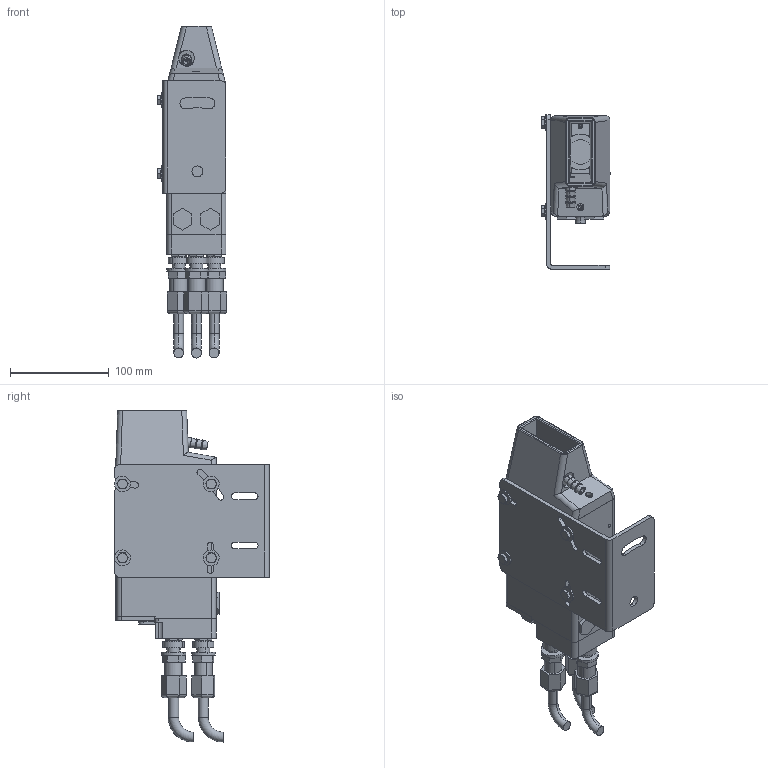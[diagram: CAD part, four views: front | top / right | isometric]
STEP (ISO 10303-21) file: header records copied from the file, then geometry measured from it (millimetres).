
FILE_DESCRIPTION (( 'STEP AP214' ), '1' );
FILE_NAME ('FT1600 LC STEP Mechanical Dimesnions.STEP', '2017-03-09T15:13:23', ( '' ), ( '' ), 'SwSTEP 2.0', 'SolidWorks 2014', '' );
FILE_SCHEMA (( 'AUTOMOTIVE_DESIGN' ));
Length unit declared in the file: millimetre
Products named in the file (1): FT1600 LC STEP Mechanical Dimesnions
Bounding box: 70.3 x 157 x 336.8 mm (x, y, z)
Volume: 680061.3 mm3; surface area: 271606.5 mm2
Topology: 60 solids, 61 shells, 3100 faces, 8042 edges, 5180 vertices
Faces by surface type: plane 1592, cylinder 988, bspline 295, cone 179, torus 42, sphere 4
Entity records: 137801 total; most frequent: CARTESIAN_POINT 27872, ORIENTED_EDGE 15924, DIRECTION 15111, EDGE_CURVE 7962, VERTEX_POINT 5172, AXIS2_PLACEMENT_3D 5062, VECTOR 4987, LINE 4987
